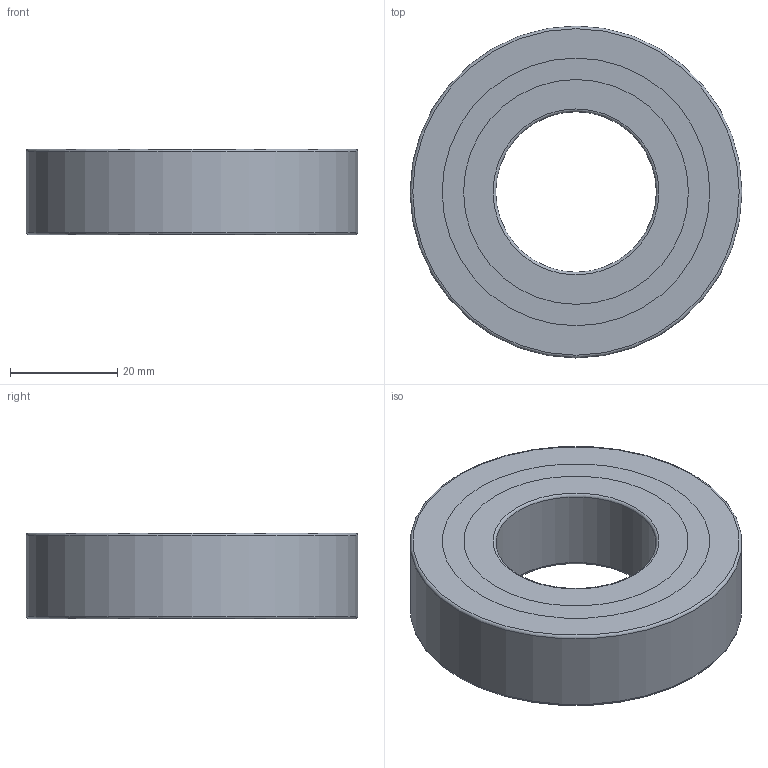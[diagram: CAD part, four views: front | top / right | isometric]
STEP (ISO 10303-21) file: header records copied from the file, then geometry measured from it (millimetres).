
FILE_DESCRIPTION(/* description */ (''),/* implementation_level */ '2;1');
FILE_NAME(/* name */ '301103 FK 6206-2RS.stp',/* time_stamp */ '2016-11-18T10:00:22+01:00',/* author */ (''),/* organization */ (''),/* preprocessor_version */ 'ST-DEVELOPER v15',/* originating_system */ 'SIEMENS PLM Software NX 8.5',/* authorisation */ '');
FILE_SCHEMA (('CONFIG_CONTROL_DESIGN'));
Length unit declared in the file: millimetre
Products named in the file (3): ATE0000079_01; ATE0000104_01; ATE0000105_01
Assembly tree (2 placements, depth 2):
  ATE0000105_01
    ATE0000104_01
    ATE0000079_01
Bounding box: 62 x 62 x 16 mm (x, y, z)
Volume: 32019.4 mm3; surface area: 18250 mm2
Topology: 4 solids, 4 shells, 72 faces, 156 edges, 102 vertices
Faces by surface type: plane 44, cylinder 22, torus 6
Full cylindrical faces by diameter (mm): 30 x1, 42 x4, 46 x1, 48 x1, 49 x2, 50 x4, 62 x1
Entity records: 2130 total; most frequent: DIRECTION 342, CARTESIAN_POINT 299, ORIENTED_EDGE 256, AXIS2_PLACEMENT_3D 139, EDGE_CURVE 128, EDGE_LOOP 112, VERTEX_POINT 96, ADVANCED_FACE 72
